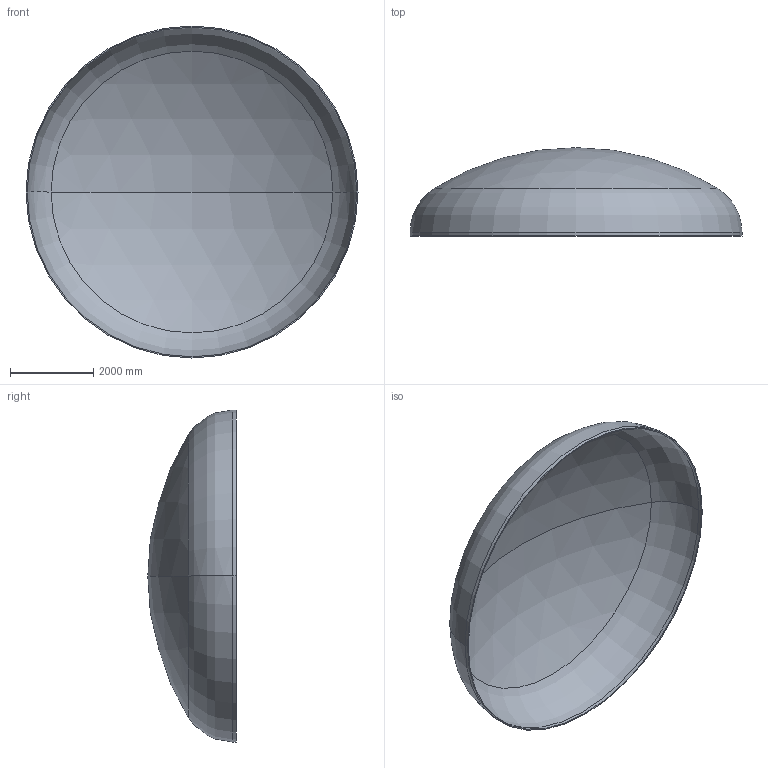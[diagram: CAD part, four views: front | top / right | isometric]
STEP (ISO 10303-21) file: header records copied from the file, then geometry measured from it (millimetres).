
FILE_DESCRIPTION (( 'STEP AP203' ), '1' );
FILE_NAME ('DIN 28013 Korbbogenform_-_Boden DIN 28013 - 8000 x 85 - I - s=27.step', '2016-07-04T10:59:57', ( '' ), ( '' ), 'SwSTEP 2.0', 'SolidWorks 2013', '' );
FILE_SCHEMA (( 'CONFIG_CONTROL_DESIGN' ));
Length unit declared in the file: millimetre
Products named in the file (1): DIN 28013 Korbbogenform_-_Boden DIN 28013 - 8000 x 85 - I - s=27
Bounding box: 8000 x 2129.67 x 8000 mm (x, y, z)
Volume: 1928301789.9 mm3; surface area: 143514932.3 mm2
Topology: 1 solids, 1 shells, 13 faces, 24 edges, 14 vertices
Faces by surface type: torus 4, cylinder 4, sphere 4, plane 1
Entity records: 407 total; most frequent: DIRECTION 72, CARTESIAN_POINT 52, ORIENTED_EDGE 48, AXIS2_PLACEMENT_3D 34, EDGE_CURVE 24, CIRCLE 20, VERTEX_POINT 14, EDGE_LOOP 14
